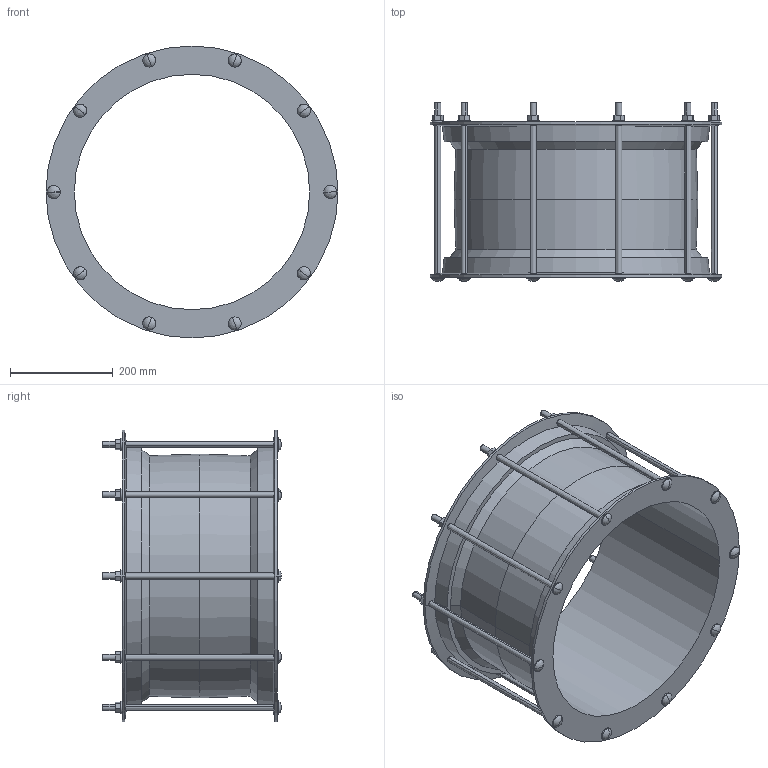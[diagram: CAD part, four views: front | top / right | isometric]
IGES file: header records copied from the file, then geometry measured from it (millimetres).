
Start section:  PTC IGES file: 439_456.igs
Global section: file name: 439_456.igs; native system: Creo Parametric by PTC Inc.; preprocessor: 2016130; author: mfairey; organization: Unknown; date: 20181218.115047; units: millimetre
Bounding box: 568 x 348 x 568 mm (x, y, z)
Surface area: 1317510.7 mm2 (no closed solid volume)
Topology: 0 solids, 0 shells, 216 faces, 1028 edges, 1008 vertices
Faces by surface type: revolution 122, bspline 94
